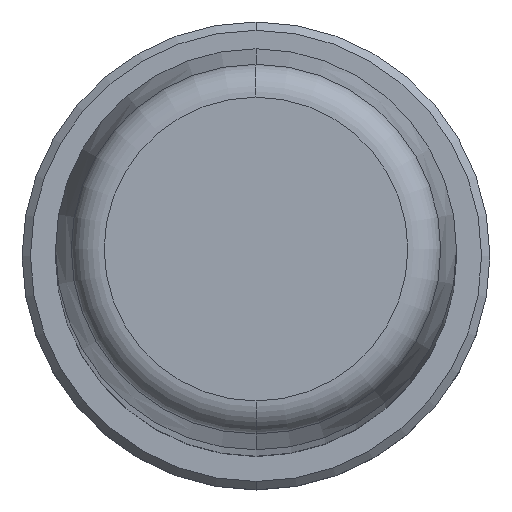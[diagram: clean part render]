
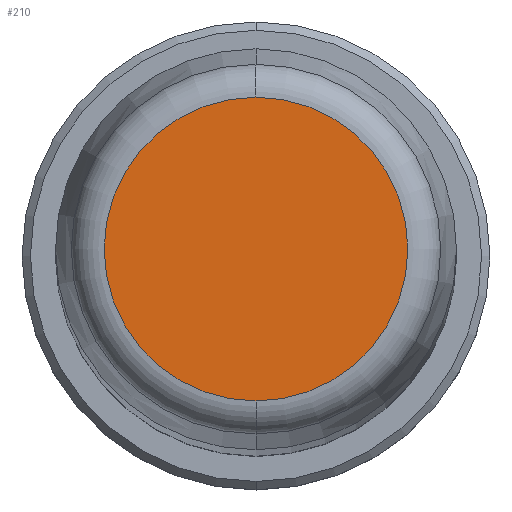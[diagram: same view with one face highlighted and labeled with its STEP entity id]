
A CAD part, top view. The second image highlights one B-rep face of the part: STEP entity #210.
In plain terms, the highlighted planar face has unit normal (0, 0, 1).
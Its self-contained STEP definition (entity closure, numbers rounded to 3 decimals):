
#1=CARTESIAN_POINT('',(0.,0.,240.));
#2=DIRECTION('',(0.,0.,-1.));
#3=DIRECTION('',(0.,-1.,0.));
#4=AXIS2_PLACEMENT_3D('',#1,#2,#3);
#6=CARTESIAN_POINT('',(0.,0.,240.));
#7=DIRECTION('',(0.,0.,-1.));
#8=DIRECTION('',(0.,1.,0.));
#9=AXIS2_PLACEMENT_3D('',#6,#7,#8);
#183=CARTESIAN_POINT('',(0.,-9.088,240.));
#184=CARTESIAN_POINT('',(0.,9.088,240.));
#185=VERTEX_POINT('',#183);
#186=VERTEX_POINT('',#184);
#199=CARTESIAN_POINT('',(0.,0.,240.));
#200=DIRECTION('',(0.,0.,1.));
#201=DIRECTION('',(0.,-1.,0.));
#202=AXIS2_PLACEMENT_3D('',#199,#200,#201);
#203=PLANE('',#202);
#205=ORIENTED_EDGE('',*,*,#204,.T.);
#207=ORIENTED_EDGE('',*,*,#206,.T.);
#208=EDGE_LOOP('',(#205,#207));
#209=FACE_OUTER_BOUND('',#208,.F.);
#210=ADVANCED_FACE('',(#209),#203,.T.);
#5=CIRCLE('',#4,9.088);
#10=CIRCLE('',#9,9.088);
#204=EDGE_CURVE('',#185,#186,#5,.T.);
#206=EDGE_CURVE('',#186,#185,#10,.T.);
